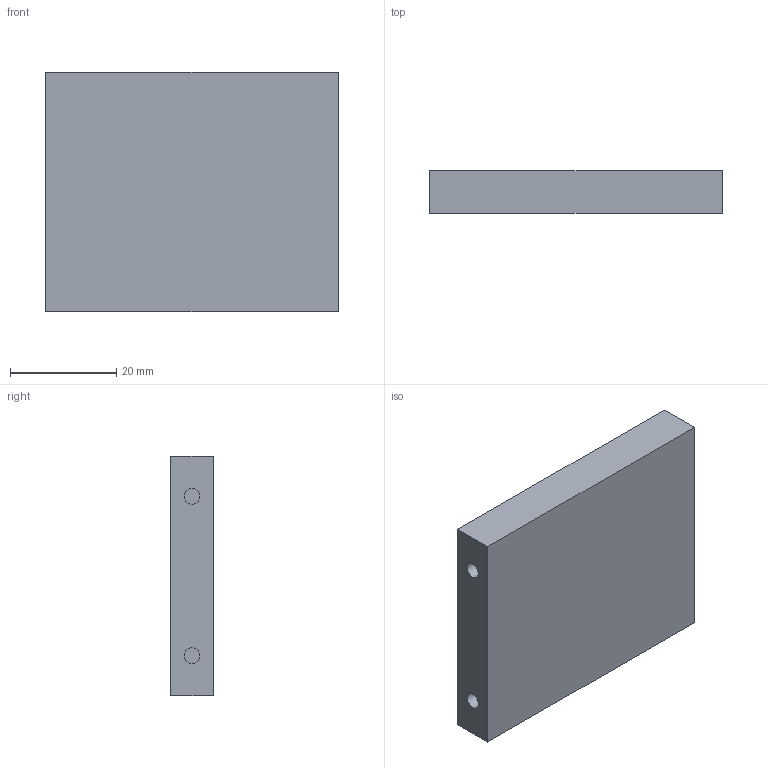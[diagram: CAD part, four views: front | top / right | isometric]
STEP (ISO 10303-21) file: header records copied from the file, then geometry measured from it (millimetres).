
FILE_DESCRIPTION(/* description */ (''),/* implementation_level */ '2;1');
FILE_NAME(/* name */ '',/* time_stamp */ '2025-10-06T21:37:09+08:00',/* author */ (''),/* organization */ (''),/* preprocessor_version */ 'ST-DEVELOPER v20.1',/* originating_system */ 'Autodesk Translation Framework v14.17.0.0',/* authorisation */ '');
FILE_SCHEMA (('AUTOMOTIVE_DESIGN { 1 0 10303 214 3 1 1 }'));
Length unit declared in the file: millimetre
Products named in the file (1): 扫描移动平台
Bounding box: 55 x 8 x 45 mm (x, y, z)
Volume: 19021.8 mm3; surface area: 6962.1 mm2
Topology: 1 solids, 1 shells, 38 faces, 78 edges, 52 vertices
Faces by surface type: plane 32, cylinder 6
Full cylindrical faces by diameter (mm): 3 x6
Entity records: 1034 total; most frequent: CARTESIAN_POINT 169, DIRECTION 168, ORIENTED_EDGE 156, EDGE_CURVE 78, LINE 66, VECTOR 66, VERTEX_POINT 52, AXIS2_PLACEMENT_3D 51
